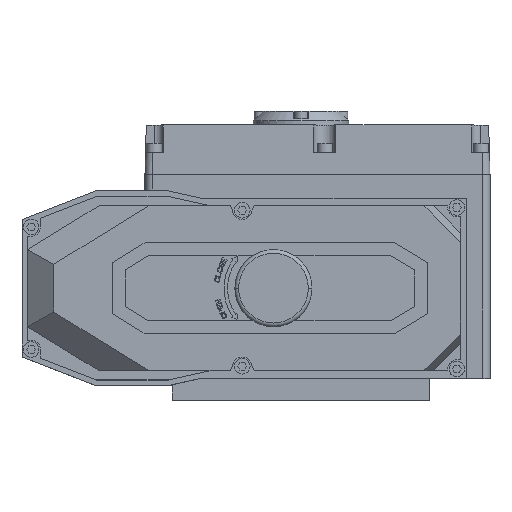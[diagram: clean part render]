
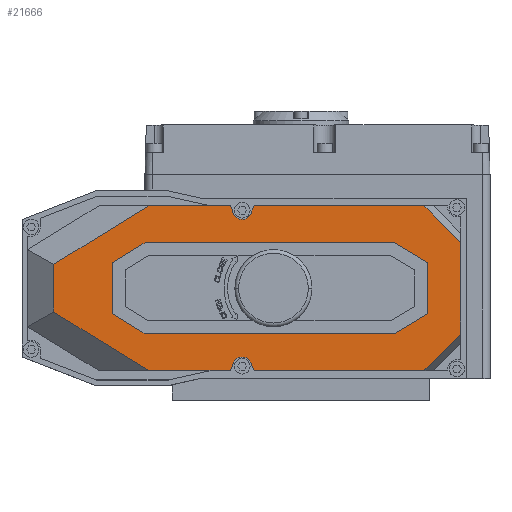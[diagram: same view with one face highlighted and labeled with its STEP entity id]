
A CAD part, top view. The second image highlights one B-rep face of the part: STEP entity #21666.
In plain terms, the highlighted planar face has unit normal (0, 0, 1).
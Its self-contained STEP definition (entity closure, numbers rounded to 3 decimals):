
#16204=DIRECTION('',(0.,-1.,0.));
#16205=VECTOR('',#16204,27.828);
#16206=CARTESIAN_POINT('',(-102.699,13.914,28.));
#16207=LINE('',#16206,#16205);
#16208=DIRECTION('',(0.852,-0.524,0.));
#16209=VECTOR('',#16208,20.819);
#16210=CARTESIAN_POINT('',(-102.699,-13.914,28.));
#16211=LINE('',#16210,#16209);
#16212=DIRECTION('',(1.,0.,0.));
#16213=VECTOR('',#16212,135.808);
#16214=CARTESIAN_POINT('',(-84.968,-24.825,28.));
#16215=LINE('',#16214,#16213);
#16216=DIRECTION('',(0.857,0.515,0.));
#16217=VECTOR('',#16216,21.186);
#16218=CARTESIAN_POINT('',(50.84,-24.825,28.));
#16219=LINE('',#16218,#16217);
#16220=DIRECTION('',(0.,1.,0.));
#16221=VECTOR('',#16220,27.828);
#16222=CARTESIAN_POINT('',(69.,-13.914,28.));
#16223=LINE('',#16222,#16221);
#16224=DIRECTION('',(-0.857,0.515,0.));
#16225=VECTOR('',#16224,21.186);
#16226=CARTESIAN_POINT('',(69.,13.914,28.));
#16227=LINE('',#16226,#16225);
#16228=DIRECTION('',(-1.,0.,0.));
#16229=VECTOR('',#16228,135.808);
#16230=CARTESIAN_POINT('',(50.84,24.825,28.));
#16231=LINE('',#16230,#16229);
#16232=DIRECTION('',(-0.852,-0.524,0.));
#16233=VECTOR('',#16232,20.819);
#16234=CARTESIAN_POINT('',(-84.968,24.825,28.));
#16235=LINE('',#16234,#16233);
#16236=DIRECTION('',(-0.423,-0.906,0.));
#16237=VECTOR('',#16236,4.897);
#16238=CARTESIAN_POINT('',(-25.399,44.825,28.));
#16239=LINE('',#16238,#16237);
#16240=DIRECTION('',(1.,0.,0.));
#16241=VECTOR('',#16240,92.426);
#16242=CARTESIAN_POINT('',(-25.399,44.825,28.));
#16243=LINE('',#16242,#16241);
#16244=DIRECTION('',(-0.707,0.707,0.));
#16245=VECTOR('',#16244,27.999);
#16246=CARTESIAN_POINT('',(86.825,25.027,28.));
#16247=LINE('',#16246,#16245);
#16248=DIRECTION('',(0.,1.,0.));
#16249=VECTOR('',#16248,50.054);
#16250=CARTESIAN_POINT('',(86.825,-25.027,28.));
#16251=LINE('',#16250,#16249);
#16252=DIRECTION('',(0.707,0.707,0.));
#16253=VECTOR('',#16252,27.999);
#16254=CARTESIAN_POINT('',(67.027,-44.825,28.));
#16255=LINE('',#16254,#16253);
#16256=DIRECTION('',(-1.,0.,0.));
#16257=VECTOR('',#16256,92.426);
#16258=CARTESIAN_POINT('',(67.027,-44.825,28.));
#16259=LINE('',#16258,#16257);
#16260=DIRECTION('',(-0.423,0.906,0.));
#16261=VECTOR('',#16260,4.897);
#16262=CARTESIAN_POINT('',(-25.399,-44.825,28.));
#16263=LINE('',#16262,#16261);
#16264=CARTESIAN_POINT('',(-32.,-42.5,28.));
#16265=DIRECTION('',(0.,0.,1.));
#16266=DIRECTION('',(0.906,0.423,0.));
#16267=AXIS2_PLACEMENT_3D('',#16264,#16265,#16266);
#16269=DIRECTION('',(0.423,0.906,0.));
#16270=VECTOR('',#16269,4.897);
#16271=CARTESIAN_POINT('',(-38.601,-44.825,28.));
#16272=LINE('',#16271,#16270);
#16273=DIRECTION('',(-1.,0.,0.));
#16274=VECTOR('',#16273,44.395);
#16275=CARTESIAN_POINT('',(-38.601,-44.825,28.));
#16276=LINE('',#16275,#16274);
#16277=DIRECTION('',(0.852,-0.524,0.));
#16278=VECTOR('',#16277,60.708);
#16279=CARTESIAN_POINT('',(-134.699,-13.009,28.));
#16280=LINE('',#16279,#16278);
#16281=DIRECTION('',(0.,-1.,0.));
#16282=VECTOR('',#16281,26.017);
#16283=CARTESIAN_POINT('',(-134.699,13.009,28.));
#16284=LINE('',#16283,#16282);
#16285=DIRECTION('',(-0.852,-0.524,0.));
#16286=VECTOR('',#16285,60.708);
#16287=CARTESIAN_POINT('',(-82.997,44.825,28.));
#16288=LINE('',#16287,#16286);
#16289=DIRECTION('',(1.,0.,0.));
#16290=VECTOR('',#16289,44.395);
#16291=CARTESIAN_POINT('',(-82.997,44.825,28.));
#16292=LINE('',#16291,#16290);
#16293=DIRECTION('',(0.423,-0.906,0.));
#16294=VECTOR('',#16293,4.897);
#16295=CARTESIAN_POINT('',(-38.601,44.825,28.));
#16296=LINE('',#16295,#16294);
#16297=CARTESIAN_POINT('',(-32.,42.5,28.));
#16298=DIRECTION('',(0.,0.,1.));
#16299=DIRECTION('',(-0.906,-0.423,0.));
#16300=AXIS2_PLACEMENT_3D('',#16297,#16298,#16299);
#19918=CARTESIAN_POINT('',(-134.699,13.009,28.));
#19919=CARTESIAN_POINT('',(-134.699,-13.009,28.));
#19920=VERTEX_POINT('',#19918);
#19921=VERTEX_POINT('',#19919);
#19923=CARTESIAN_POINT('',(-82.997,-44.825,28.));
#19925=VERTEX_POINT('',#19923);
#19926=CARTESIAN_POINT('',(-82.997,44.825,28.));
#19928=VERTEX_POINT('',#19926);
#19930=CARTESIAN_POINT('',(86.825,-25.027,28.));
#19932=VERTEX_POINT('',#19930);
#19935=CARTESIAN_POINT('',(67.027,-44.825,28.));
#19937=VERTEX_POINT('',#19935);
#19938=CARTESIAN_POINT('',(67.027,44.825,28.));
#19940=VERTEX_POINT('',#19938);
#19943=CARTESIAN_POINT('',(86.825,25.027,28.));
#19945=VERTEX_POINT('',#19943);
#19958=CARTESIAN_POINT('',(-102.699,13.914,28.));
#19959=CARTESIAN_POINT('',(-102.699,-13.914,28.));
#19960=VERTEX_POINT('',#19958);
#19961=VERTEX_POINT('',#19959);
#19962=CARTESIAN_POINT('',(-84.968,-24.825,28.));
#19963=VERTEX_POINT('',#19962);
#19964=CARTESIAN_POINT('',(50.84,-24.825,28.));
#19965=VERTEX_POINT('',#19964);
#19966=CARTESIAN_POINT('',(50.84,24.825,28.));
#19967=CARTESIAN_POINT('',(-84.968,24.825,28.));
#19968=VERTEX_POINT('',#19966);
#19969=VERTEX_POINT('',#19967);
#21062=CARTESIAN_POINT('',(69.,-13.914,28.));
#21063=VERTEX_POINT('',#21062);
#21064=CARTESIAN_POINT('',(69.,13.914,28.));
#21065=VERTEX_POINT('',#21064);
#21098=CARTESIAN_POINT('',(-25.399,44.825,28.));
#21099=CARTESIAN_POINT('',(-27.468,40.387,28.));
#21100=VERTEX_POINT('',#21098);
#21101=VERTEX_POINT('',#21099);
#21102=CARTESIAN_POINT('',(-38.601,44.825,28.));
#21103=CARTESIAN_POINT('',(-36.532,40.387,28.));
#21104=VERTEX_POINT('',#21102);
#21105=VERTEX_POINT('',#21103);
#21106=CARTESIAN_POINT('',(-27.468,-40.387,28.));
#21107=CARTESIAN_POINT('',(-36.532,-40.387,28.));
#21108=VERTEX_POINT('',#21106);
#21109=VERTEX_POINT('',#21107);
#21110=CARTESIAN_POINT('',(-38.601,-44.825,28.));
#21111=VERTEX_POINT('',#21110);
#21112=CARTESIAN_POINT('',(-25.399,-44.825,28.));
#21113=VERTEX_POINT('',#21112);
#21614=CARTESIAN_POINT('',(0.,0.,28.));
#21615=DIRECTION('',(0.,0.,1.));
#21616=DIRECTION('',(1.,0.,0.));
#21617=AXIS2_PLACEMENT_3D('',#21614,#21615,#21616);
#21618=PLANE('',#21617);
#21620=ORIENTED_EDGE('',*,*,#21619,.F.);
#21622=ORIENTED_EDGE('',*,*,#21621,.T.);
#21624=ORIENTED_EDGE('',*,*,#21623,.F.);
#21625=ORIENTED_EDGE('',*,*,#21605,.F.);
#21626=ORIENTED_EDGE('',*,*,#21594,.F.);
#21628=ORIENTED_EDGE('',*,*,#21627,.T.);
#21629=ORIENTED_EDGE('',*,*,#21494,.T.);
#21630=ORIENTED_EDGE('',*,*,#21510,.T.);
#21631=ORIENTED_EDGE('',*,*,#21527,.F.);
#21633=ORIENTED_EDGE('',*,*,#21632,.T.);
#21635=ORIENTED_EDGE('',*,*,#21634,.F.);
#21637=ORIENTED_EDGE('',*,*,#21636,.F.);
#21639=ORIENTED_EDGE('',*,*,#21638,.F.);
#21641=ORIENTED_EDGE('',*,*,#21640,.T.);
#21643=ORIENTED_EDGE('',*,*,#21642,.T.);
#21645=ORIENTED_EDGE('',*,*,#21644,.T.);
#21646=EDGE_LOOP('',(#21620,#21622,#21624,#21625,#21626,#21628,#21629,#21630,
#21631,#21633,#21635,#21637,#21639,#21641,#21643,#21645));
#21647=FACE_OUTER_BOUND('',#21646,.F.);
#21649=ORIENTED_EDGE('',*,*,#21648,.T.);
#21651=ORIENTED_EDGE('',*,*,#21650,.T.);
#21653=ORIENTED_EDGE('',*,*,#21652,.T.);
#21655=ORIENTED_EDGE('',*,*,#21654,.T.);
#21657=ORIENTED_EDGE('',*,*,#21656,.T.);
#21659=ORIENTED_EDGE('',*,*,#21658,.T.);
#21661=ORIENTED_EDGE('',*,*,#21660,.T.);
#21663=ORIENTED_EDGE('',*,*,#21662,.T.);
#21664=EDGE_LOOP('',(#21649,#21651,#21653,#21655,#21657,#21659,#21661,#21663));
#21665=FACE_BOUND('',#21664,.F.);
#21666=ADVANCED_FACE('',(#21647,#21665),#21618,.T.);
#16268=CIRCLE('',#16267,5.);
#16301=CIRCLE('',#16300,5.);
#21494=EDGE_CURVE('',#21113,#21108,#16263,.T.);
#21510=EDGE_CURVE('',#21108,#21109,#16268,.T.);
#21527=EDGE_CURVE('',#21111,#21109,#16272,.T.);
#21594=EDGE_CURVE('',#19937,#19932,#16255,.T.);
#21605=EDGE_CURVE('',#19932,#19945,#16251,.T.);
#21619=EDGE_CURVE('',#21100,#21101,#16239,.T.);
#21621=EDGE_CURVE('',#21100,#19940,#16243,.T.);
#21623=EDGE_CURVE('',#19945,#19940,#16247,.T.);
#21627=EDGE_CURVE('',#19937,#21113,#16259,.T.);
#21632=EDGE_CURVE('',#21111,#19925,#16276,.T.);
#21634=EDGE_CURVE('',#19921,#19925,#16280,.T.);
#21636=EDGE_CURVE('',#19920,#19921,#16284,.T.);
#21638=EDGE_CURVE('',#19928,#19920,#16288,.T.);
#21640=EDGE_CURVE('',#19928,#21104,#16292,.T.);
#21642=EDGE_CURVE('',#21104,#21105,#16296,.T.);
#21644=EDGE_CURVE('',#21105,#21101,#16301,.T.);
#21648=EDGE_CURVE('',#19960,#19961,#16207,.T.);
#21650=EDGE_CURVE('',#19961,#19963,#16211,.T.);
#21652=EDGE_CURVE('',#19963,#19965,#16215,.T.);
#21654=EDGE_CURVE('',#19965,#21063,#16219,.T.);
#21656=EDGE_CURVE('',#21063,#21065,#16223,.T.);
#21658=EDGE_CURVE('',#21065,#19968,#16227,.T.);
#21660=EDGE_CURVE('',#19968,#19969,#16231,.T.);
#21662=EDGE_CURVE('',#19969,#19960,#16235,.T.);
